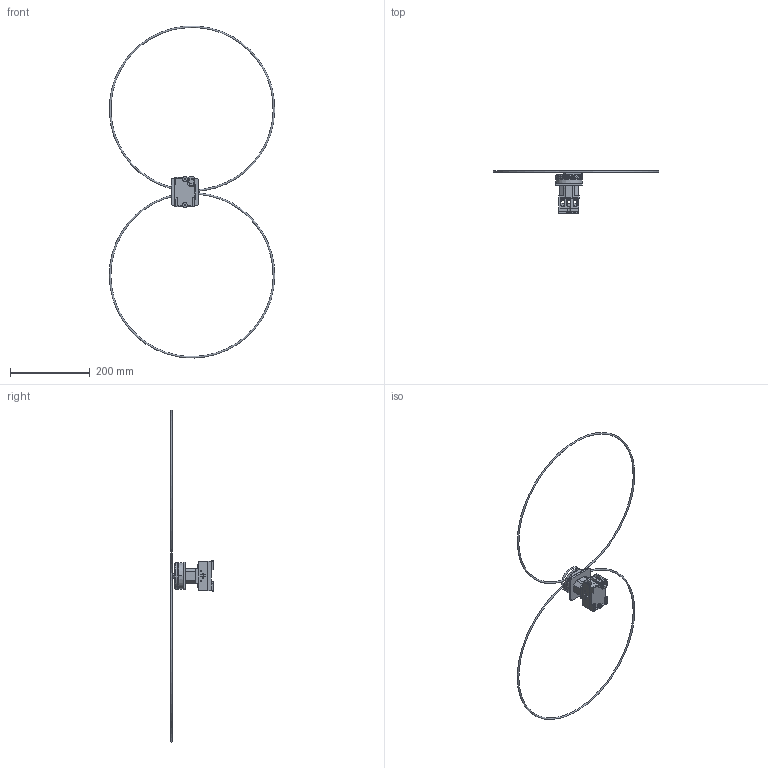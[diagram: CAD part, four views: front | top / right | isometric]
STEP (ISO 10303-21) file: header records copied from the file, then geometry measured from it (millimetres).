
FILE_DESCRIPTION((''),'2;1');
FILE_NAME('CDF1-63A_ASM','2023-08-24T',('xiaokai.shi'),(''),'PRO/ENGINEER BY PARAMETRIC TECHNOLOGY CORPORATION, 2015440','PRO/ENGINEER BY PARAMETRIC TECHNOLOGY CORPORATION, 2015440','');
FILE_SCHEMA(('CONFIG_CONTROL_DESIGN'));
Products named in the file (1): CDF1-63A_ASM
Bounding box: 414.48 x 106 x 831.83 mm (x, y, z)
Surface area: 89318.5 mm2 (no closed solid volume)
Topology: 0 solids, 0 shells, 588 faces, 3158 edges, 3147 vertices
Faces by surface type: bspline 572, torus 16
Entity records: 47165 total; most frequent: CARTESIAN_POINT 18027, DIRECTION 4565, TRIMMED_CURVE 4289, VECTOR 4045, LINE 4045, DEFINITIONAL_REPRESENTATION 3136, PCURVE 3136, COMPOSITE_CURVE_SEGMENT 3136
